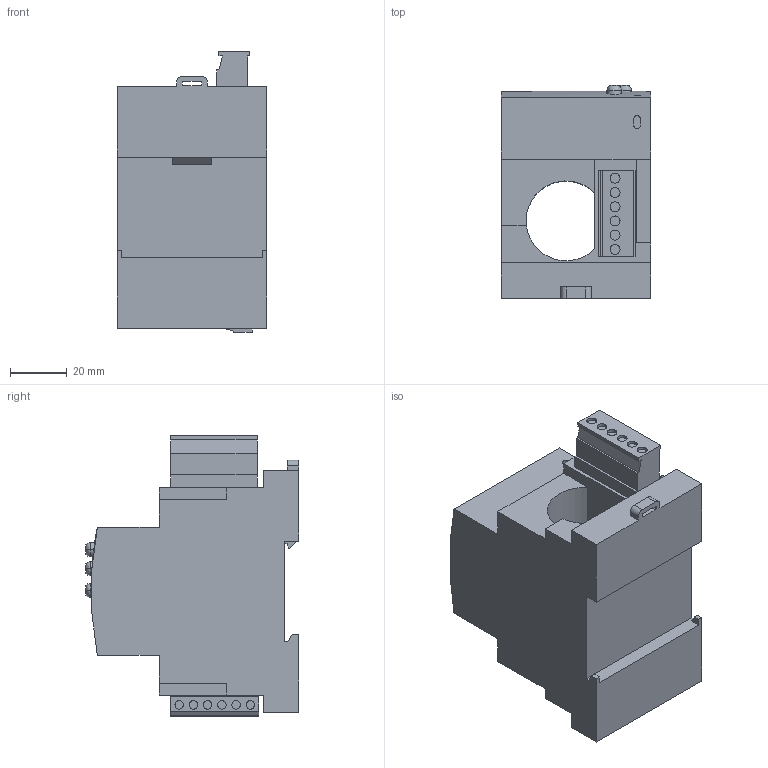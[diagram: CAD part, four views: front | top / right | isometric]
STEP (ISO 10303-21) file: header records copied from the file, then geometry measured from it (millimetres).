
FILE_DESCRIPTION((''),'2;1');
FILE_NAME('WRU10','2017-11-17T',('mpoy'),(''),'CREO PARAMETRIC BY PTC INC, 2015290','CREO PARAMETRIC BY PTC INC, 2015290','');
FILE_SCHEMA(('AUTOMOTIVE_DESIGN { 1 0 10303 214 1 1 1 1 }'));
Length unit declared in the file: millimetre
Products named in the file (1): WRU10
Bounding box: 52.5 x 75 x 98.58 mm (x, y, z)
Volume: 202788.6 mm3; surface area: 33831.3 mm2
Topology: 1 solids, 1 shells, 145 faces, 366 edges, 242 vertices
Faces by surface type: plane 93, cylinder 46, bspline 6
Entity records: 7465 total; most frequent: COLOUR_RGB 1575, CARTESIAN_POINT 1019, DIRECTION 734, ORIENTED_EDGE 732, PRESENTATION_STYLE_ASSIGNMENT 367, STYLED_ITEM 367, CURVE_STYLE 366, EDGE_CURVE 366
